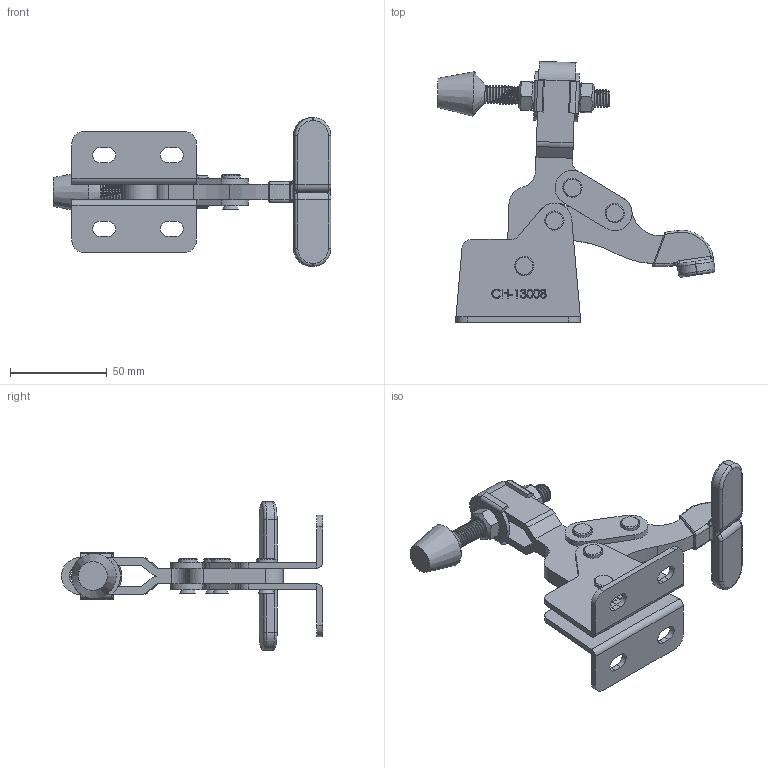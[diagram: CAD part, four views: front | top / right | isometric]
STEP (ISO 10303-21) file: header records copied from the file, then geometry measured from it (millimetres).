
FILE_DESCRIPTION(/* description */ ('STEP AP203'),/* implementation_level */ '2;1');
FILE_NAME(/* name */ 'D:\Vault_2016\Projekty\Clamptek\STRONA\Vertical toggle clamp\CH-13008\CH-13008_OTWARTY.stp',/* time_stamp */ '2019-01-16T12:58:12+01:00',/* author */ ('Łukasz'),/* organization */ ('Î¢ÈíÖÐ¹ú'),/* preprocessor_version */ 'ST-DEVELOPER v17.2',/* originating_system */ 'Autodesk Inventor 2019',/* authorisation */ '');
FILE_SCHEMA (('AUTOMOTIVE_DESIGN { 1 0 10303 214 3 1 1 }'));
Products named in the file (10): CH-13008_ZAMKNIETY; CH-13008-03 T-HANDLE; CH-13008-02 U-BAR; CH-13008-01 FLANGED BASE; CH-13008-04 CONNECTING-PIATE; CH-FC-38312 SPINDLE SUPPLIED; CH-FC-38312 Nut; CH-13008-05; CH-13008-06; CH-FW-380
Assembly tree (18 placements, depth 2):
  CH-13008_ZAMKNIETY
    CH-13008-05  x4
    CH-13008-03 T-HANDLE
    CH-13008-02 U-BAR
    CH-13008-06  x4
    CH-13008-01 FLANGED BASE
    CH-FC-38312 Nut  x2
    CH-13008-04 CONNECTING-PIATE  x2
    CH-FC-38312 SPINDLE SUPPLIED
    CH-FW-380  x2
Bounding box: 143.67 x 135.01 x 77 mm (x, y, z)
Volume: 88185.1 mm3; surface area: 55681.9 mm2
Topology: 19 solids, 20 shells, 2633 faces, 6422 edges, 3858 vertices
Faces by surface type: plane 1543, cylinder 799, bspline 206, cone 61, torus 24
Full cylindrical faces by diameter (mm): 1.371 x1, 1.542 x1, 6.395 x4, 6.4 x12, 9.5 x48, 9.8 x2, 9.923 x4, 13.856 x1
Entity records: 68405 total; most frequent: CARTESIAN_POINT 42304, ORIENTED_EDGE 5624, DIRECTION 4911, EDGE_CURVE 2812, VERTEX_POINT 1762, AXIS2_PLACEMENT_3D 1719, LINE 1473, VECTOR 1473
